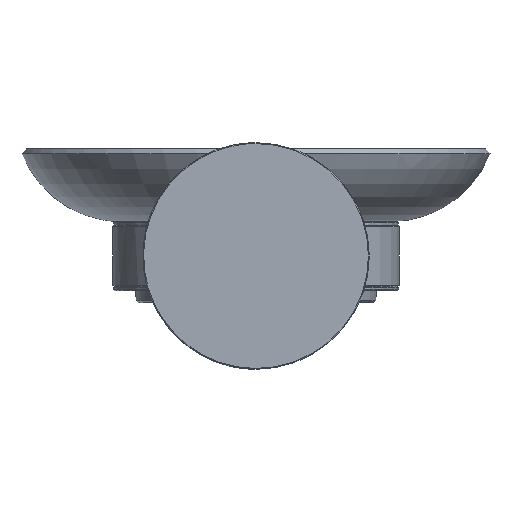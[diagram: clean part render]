
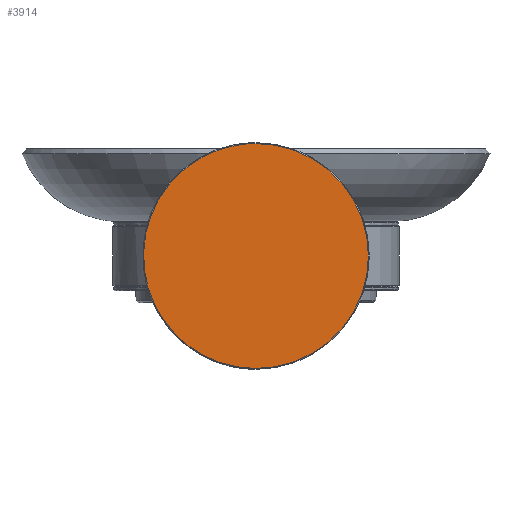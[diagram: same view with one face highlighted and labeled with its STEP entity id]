
A CAD part, front view. The second image highlights one B-rep face of the part: STEP entity #3914.
In plain terms, the highlighted planar face has unit normal (0, -1, 0).
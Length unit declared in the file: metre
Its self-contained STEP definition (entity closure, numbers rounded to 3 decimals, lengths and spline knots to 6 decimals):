
#2531=EDGE_CURVE('',#2532,#2534,#2536,.F.);
#2532=VERTEX_POINT('',#2533);
#2533=CARTESIAN_POINT('',(0.0,0.0,-0.0263));
#2534=VERTEX_POINT('',#2535);
#2535=CARTESIAN_POINT('',(0.0,0.0,0.0263));
#2536=CIRCLE('',#2537,0.0263);
#2537=AXIS2_PLACEMENT_3D('',#2538,#2539,#2540);
#2538=CARTESIAN_POINT('',(0.0,0.0,0.0));
#2539=DIRECTION('',(0.0,1.0,0.0));
#2540=DIRECTION('',(0.0,0.0,1.0));
#3914=ADVANCED_FACE('',(#3920),#3915,.F.);
#3915=PLANE('',#3916);
#3916=AXIS2_PLACEMENT_3D('',#3917,#3918,#3919);
#3917=CARTESIAN_POINT('',(0.0,0.0,0.0265));
#3918=DIRECTION('',(0.0,1.0,0.0));
#3919=DIRECTION('',(0.0,0.0,1.0));
#3920=FACE_OUTER_BOUND('',#3921,.T.);
#3921=EDGE_LOOP('',(#3922,#3930));
#3922=ORIENTED_EDGE('',*,*,#3924,.T.);
#3923=CARTESIAN_POINT('',(0.0,0.0,-0.0263));
#3924=EDGE_CURVE('',#2534,#2532,#3925,.F.);
#3925=(B_SPLINE_CURVE(3,(#3923,#3926,#3927,#3928),.UNSPECIFIED.,.F.,.U.)B_SPLINE_CURVE_WITH_KNOTS(
  (4,4),(0.0,1.0),.UNSPECIFIED.)BOUNDED_CURVE()CURVE()GEOMETRIC_REPRESENTATION_ITEM(
  )RATIONAL_B_SPLINE_CURVE((1.0,0.333,0.333,1.0)
  )REPRESENTATION_ITEM(''));
#3926=CARTESIAN_POINT('',(-0.0526,0.0,-0.0263));
#3927=CARTESIAN_POINT('',(-0.0526,0.0,0.0263));
#3928=CARTESIAN_POINT('',(0.0,0.0,0.0263));
#3930=ORIENTED_EDGE('',*,*,#2531,.T.);
